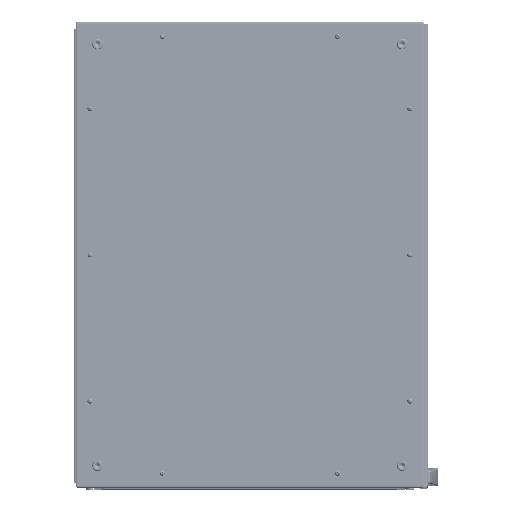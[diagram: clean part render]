
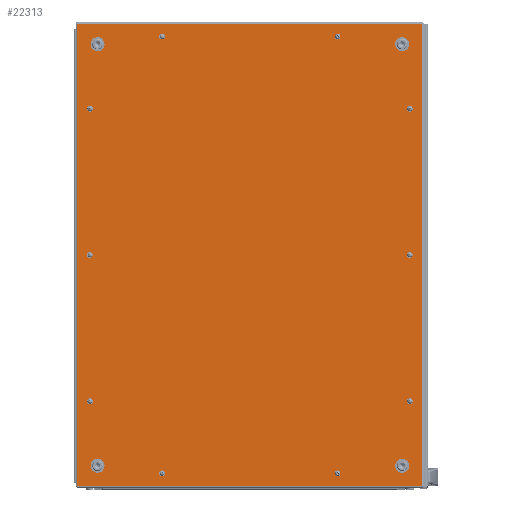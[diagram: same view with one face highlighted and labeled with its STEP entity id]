
A CAD part, top view. The second image highlights one B-rep face of the part: STEP entity #22313.
In plain terms, the highlighted planar face has unit normal (0, 0, 1).
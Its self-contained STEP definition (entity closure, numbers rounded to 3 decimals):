
#22313=ADVANCED_FACE('',(#135920,#135922,#135924,#135926,#135928,#135930,#135932,
#135934,#135936,#135938,#135940,#135942,#135944,#135946,#135948),#135950,.T.);
#135920=FACE_BOUND('',#135921,.T.);
#135921=EDGE_LOOP('',(#221840,#221841,#221842,#221843));
#135922=FACE_BOUND('',#135923,.T.);
#135923=EDGE_LOOP('',(#221844));
#135924=FACE_BOUND('',#135925,.T.);
#135925=EDGE_LOOP('',(#221845));
#135926=FACE_BOUND('',#135927,.T.);
#135927=EDGE_LOOP('',(#221846));
#135928=FACE_BOUND('',#135929,.T.);
#135929=EDGE_LOOP('',(#221847));
#135930=FACE_BOUND('',#135931,.T.);
#135931=EDGE_LOOP('',(#221848));
#135932=FACE_BOUND('',#135933,.T.);
#135933=EDGE_LOOP('',(#221849));
#135934=FACE_BOUND('',#135935,.T.);
#135935=EDGE_LOOP('',(#221850));
#135936=FACE_BOUND('',#135937,.T.);
#135937=EDGE_LOOP('',(#221851));
#135938=FACE_BOUND('',#135939,.T.);
#135939=EDGE_LOOP('',(#221852));
#135940=FACE_BOUND('',#135941,.T.);
#135941=EDGE_LOOP('',(#221853));
#135942=FACE_BOUND('',#135943,.T.);
#135943=EDGE_LOOP('',(#221854));
#135944=FACE_BOUND('',#135945,.T.);
#135945=EDGE_LOOP('',(#221855));
#135946=FACE_BOUND('',#135947,.T.);
#135947=EDGE_LOOP('',(#221856));
#135948=FACE_BOUND('',#135949,.T.);
#135949=EDGE_LOOP('',(#221857));
#135950=PLANE('',#135951);
#135951=AXIS2_PLACEMENT_3D('',#135952,#135953,#135954);
#135952=CARTESIAN_POINT('',(0.,0.,1.5));
#135953=DIRECTION('',(0.,0.,1.));
#135954=DIRECTION('',(0.,1.,0.));
#221840=ORIENTED_EDGE('',*,*,#261618,.T.);
#221841=ORIENTED_EDGE('',*,*,#261619,.T.);
#221842=ORIENTED_EDGE('',*,*,#261620,.T.);
#221843=ORIENTED_EDGE('',*,*,#261621,.T.);
#221844=ORIENTED_EDGE('',*,*,#261597,.T.);
#221845=ORIENTED_EDGE('',*,*,#261596,.T.);
#221846=ORIENTED_EDGE('',*,*,#261595,.T.);
#221847=ORIENTED_EDGE('',*,*,#261594,.T.);
#221848=ORIENTED_EDGE('',*,*,#261593,.T.);
#221849=ORIENTED_EDGE('',*,*,#261592,.T.);
#221850=ORIENTED_EDGE('',*,*,#261588,.T.);
#221851=ORIENTED_EDGE('',*,*,#261589,.T.);
#221852=ORIENTED_EDGE('',*,*,#261590,.T.);
#221853=ORIENTED_EDGE('',*,*,#261591,.T.);
#221854=ORIENTED_EDGE('',*,*,#261586,.T.);
#221855=ORIENTED_EDGE('',*,*,#261585,.T.);
#221856=ORIENTED_EDGE('',*,*,#261584,.T.);
#221857=ORIENTED_EDGE('',*,*,#261583,.T.);
#261583=EDGE_CURVE('',#320310,#320310,#320311,.F.);
#261584=EDGE_CURVE('',#320312,#320312,#320313,.F.);
#261585=EDGE_CURVE('',#320314,#320314,#320315,.F.);
#261586=EDGE_CURVE('',#320316,#320316,#320317,.F.);
#261588=EDGE_CURVE('',#320320,#320320,#320321,.F.);
#261589=EDGE_CURVE('',#320322,#320322,#320323,.F.);
#261590=EDGE_CURVE('',#320324,#320324,#320325,.F.);
#261591=EDGE_CURVE('',#320326,#320326,#320327,.F.);
#261592=EDGE_CURVE('',#320328,#320328,#320329,.F.);
#261593=EDGE_CURVE('',#320330,#320330,#320331,.F.);
#261594=EDGE_CURVE('',#320332,#320332,#320333,.F.);
#261595=EDGE_CURVE('',#320334,#320334,#320335,.F.);
#261596=EDGE_CURVE('',#320336,#320336,#320337,.F.);
#261597=EDGE_CURVE('',#320338,#320338,#320339,.F.);
#261618=EDGE_CURVE('',#320376,#320377,#320378,.T.);
#261619=EDGE_CURVE('',#320377,#320379,#320380,.T.);
#261620=EDGE_CURVE('',#320379,#320381,#320382,.T.);
#261621=EDGE_CURVE('',#320381,#320376,#320383,.T.);
#320310=VERTEX_POINT('',#454043);
#320311=CIRCLE('',#454044,3.75);
#320312=VERTEX_POINT('',#454048);
#320313=CIRCLE('',#454049,3.75);
#320314=VERTEX_POINT('',#454053);
#320315=CIRCLE('',#454054,3.75);
#320316=VERTEX_POINT('',#454058);
#320317=CIRCLE('',#454059,3.75);
#320320=VERTEX_POINT('',#454068);
#320321=CIRCLE('',#454069,7.);
#320322=VERTEX_POINT('',#454073);
#320323=CIRCLE('',#454074,7.);
#320324=VERTEX_POINT('',#454078);
#320325=CIRCLE('',#454079,7.);
#320326=VERTEX_POINT('',#454083);
#320327=CIRCLE('',#454084,7.);
#320328=VERTEX_POINT('',#454088);
#320329=CIRCLE('',#454089,3.75);
#320330=VERTEX_POINT('',#454093);
#320331=CIRCLE('',#454094,3.75);
#320332=VERTEX_POINT('',#454098);
#320333=CIRCLE('',#454099,3.75);
#320334=VERTEX_POINT('',#454103);
#320335=CIRCLE('',#454104,3.75);
#320336=VERTEX_POINT('',#454108);
#320337=CIRCLE('',#454109,3.75);
#320338=VERTEX_POINT('',#454113);
#320339=CIRCLE('',#454114,3.75);
#320376=VERTEX_POINT('',#454330);
#320377=VERTEX_POINT('',#454331);
#320378=LINE('',#454332,#454333);
#320379=VERTEX_POINT('',#454335);
#320380=LINE('',#454336,#454337);
#320381=VERTEX_POINT('',#454339);
#320382=LINE('',#454340,#454341);
#320383=LINE('',#454343,#454344);
#454043=CARTESIAN_POINT('',(-273.5,253.75,1.5));
#454044=AXIS2_PLACEMENT_3D('',#454045,#454046,#454047);
#454045=CARTESIAN_POINT('',(-273.5,250.,1.5));
#454046=DIRECTION('',(0.,0.,1.));
#454047=DIRECTION('',(0.,1.,0.));
#454048=CARTESIAN_POINT('',(273.5,-246.25,1.5));
#454049=AXIS2_PLACEMENT_3D('',#454050,#454051,#454052);
#454050=CARTESIAN_POINT('',(273.5,-250.,1.5));
#454051=DIRECTION('',(0.,0.,1.));
#454052=DIRECTION('',(0.,1.,0.));
#454053=CARTESIAN_POINT('',(273.5,253.75,1.5));
#454054=AXIS2_PLACEMENT_3D('',#454055,#454056,#454057);
#454055=CARTESIAN_POINT('',(273.5,250.,1.5));
#454056=DIRECTION('',(0.,0.,1.));
#454057=DIRECTION('',(0.,1.,0.));
#454058=CARTESIAN_POINT('',(-273.5,-246.25,1.5));
#454059=AXIS2_PLACEMENT_3D('',#454060,#454061,#454062);
#454060=CARTESIAN_POINT('',(-273.5,-250.,1.5));
#454061=DIRECTION('',(0.,0.,1.));
#454062=DIRECTION('',(0.,1.,0.));
#454068=CARTESIAN_POINT('',(260.5,367.5,1.5));
#454069=AXIS2_PLACEMENT_3D('',#454070,#454071,#454072);
#454070=CARTESIAN_POINT('',(260.5,360.5,1.5));
#454071=DIRECTION('',(0.,0.,1.));
#454072=DIRECTION('',(0.,1.,0.));
#454073=CARTESIAN_POINT('',(-260.5,-353.5,1.5));
#454074=AXIS2_PLACEMENT_3D('',#454075,#454076,#454077);
#454075=CARTESIAN_POINT('',(-260.5,-360.5,1.5));
#454076=DIRECTION('',(0.,0.,1.));
#454077=DIRECTION('',(0.,1.,0.));
#454078=CARTESIAN_POINT('',(-260.5,367.5,1.5));
#454079=AXIS2_PLACEMENT_3D('',#454080,#454081,#454082);
#454080=CARTESIAN_POINT('',(-260.5,360.5,1.5));
#454081=DIRECTION('',(0.,0.,1.));
#454082=DIRECTION('',(0.,1.,0.));
#454083=CARTESIAN_POINT('',(260.5,-353.5,1.5));
#454084=AXIS2_PLACEMENT_3D('',#454085,#454086,#454087);
#454085=CARTESIAN_POINT('',(260.5,-360.5,1.5));
#454086=DIRECTION('',(0.,0.,1.));
#454087=DIRECTION('',(0.,1.,0.));
#454088=CARTESIAN_POINT('',(-273.5,3.75,1.5));
#454089=AXIS2_PLACEMENT_3D('',#454090,#454091,#454092);
#454090=CARTESIAN_POINT('',(-273.5,0.,1.5));
#454091=DIRECTION('',(0.,0.,1.));
#454092=DIRECTION('',(0.,1.,0.));
#454093=CARTESIAN_POINT('',(273.5,3.75,1.5));
#454094=AXIS2_PLACEMENT_3D('',#454095,#454096,#454097);
#454095=CARTESIAN_POINT('',(273.5,0.,1.5));
#454096=DIRECTION('',(0.,0.,1.));
#454097=DIRECTION('',(0.,1.,0.));
#454098=CARTESIAN_POINT('',(-150.,-369.75,1.5));
#454099=AXIS2_PLACEMENT_3D('',#454100,#454101,#454102);
#454100=CARTESIAN_POINT('',(-150.,-373.5,1.5));
#454101=DIRECTION('',(0.,0.,1.));
#454102=DIRECTION('',(0.,1.,0.));
#454103=CARTESIAN_POINT('',(150.,377.25,1.5));
#454104=AXIS2_PLACEMENT_3D('',#454105,#454106,#454107);
#454105=CARTESIAN_POINT('',(150.,373.5,1.5));
#454106=DIRECTION('',(0.,0.,1.));
#454107=DIRECTION('',(0.,1.,0.));
#454108=CARTESIAN_POINT('',(-150.,377.25,1.5));
#454109=AXIS2_PLACEMENT_3D('',#454110,#454111,#454112);
#454110=CARTESIAN_POINT('',(-150.,373.5,1.5));
#454111=DIRECTION('',(0.,0.,1.));
#454112=DIRECTION('',(0.,1.,0.));
#454113=CARTESIAN_POINT('',(150.,-369.75,1.5));
#454114=AXIS2_PLACEMENT_3D('',#454115,#454116,#454117);
#454115=CARTESIAN_POINT('',(150.,-373.5,1.5));
#454116=DIRECTION('',(0.,0.,1.));
#454117=DIRECTION('',(0.,1.,0.));
#454330=CARTESIAN_POINT('',(295.2,395.2,1.5));
#454331=CARTESIAN_POINT('',(-295.2,395.2,1.5));
#454332=CARTESIAN_POINT('',(295.2,395.2,1.5));
#454333=VECTOR('',#454334,1.);
#454334=DIRECTION('',(-1.,0.,0.));
#454335=CARTESIAN_POINT('',(-295.2,-395.2,1.5));
#454336=CARTESIAN_POINT('',(-295.2,395.2,1.5));
#454337=VECTOR('',#454338,1.);
#454338=DIRECTION('',(0.,-1.,0.));
#454339=CARTESIAN_POINT('',(295.2,-395.2,1.5));
#454340=CARTESIAN_POINT('',(-295.2,-395.2,1.5));
#454341=VECTOR('',#454342,1.);
#454342=DIRECTION('',(1.,0.,0.));
#454343=CARTESIAN_POINT('',(295.2,-395.2,1.5));
#454344=VECTOR('',#454345,1.);
#454345=DIRECTION('',(0.,1.,0.));
